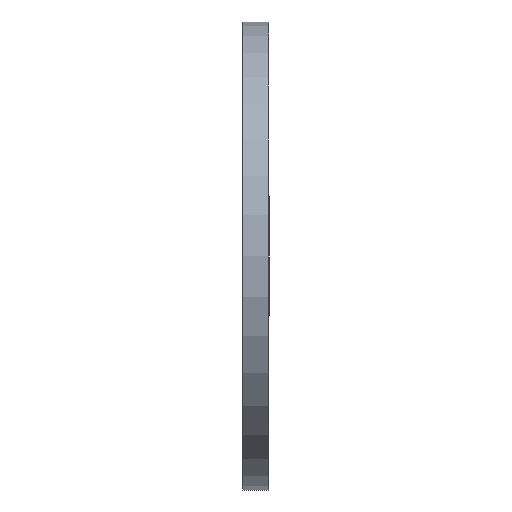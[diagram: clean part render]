
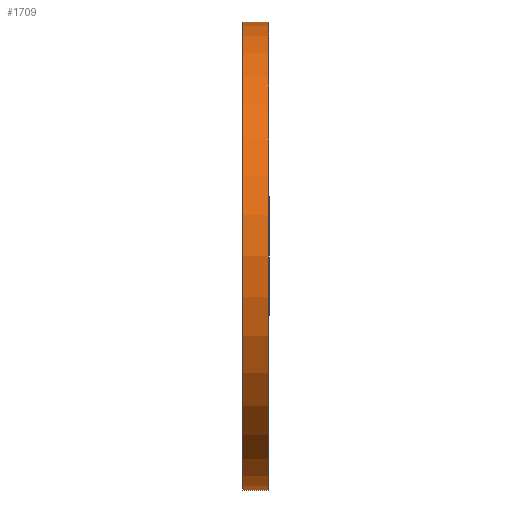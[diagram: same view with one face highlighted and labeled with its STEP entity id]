
A CAD part, left-side view. The second image highlights one B-rep face of the part: STEP entity #1709.
In plain terms, the highlighted cylindrical face has radius 45 mm (diameter 90 mm), a partial arc.
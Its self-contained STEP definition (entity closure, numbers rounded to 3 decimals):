
#179 = VERTEX_POINT ( 'NONE', #1853 ) ;
#233 = VERTEX_POINT ( 'NONE', #1841 ) ;
#288 = VECTOR ( 'NONE', #1513, 1000. ) ;
#325 = AXIS2_PLACEMENT_3D ( 'NONE', #1616, #1617, #1618 ) ;
#331 = CIRCLE ( 'NONE', #389, 45. ) ;
#335 = VECTOR ( 'NONE', #1515, 1000. ) ;
#389 = AXIS2_PLACEMENT_3D ( 'NONE', #1477, #1478, #1479 ) ;
#431 = VERTEX_POINT ( 'NONE', #1810 ) ;
#432 = VERTEX_POINT ( 'NONE', #1809 ) ;
#545 = EDGE_LOOP ( 'NONE', ( #596, #599, #598, #600 ) ) ;
#596 = ORIENTED_EDGE ( 'NONE', *, *, #1659, .T. ) ;
#598 = ORIENTED_EDGE ( 'NONE', *, *, #787, .F. ) ;
#599 = ORIENTED_EDGE ( 'NONE', *, *, #1673, .F. ) ;
#600 = ORIENTED_EDGE ( 'NONE', *, *, #1674, .T. ) ;
#787 = EDGE_CURVE ( 'NONE', #233, #179, #1203, .T. ) ;
#964 = CARTESIAN_POINT ( 'NONE',  ( -96., -5., 0. ) ) ;
#965 = DIRECTION ( 'NONE',  ( 0., -1., 0. ) ) ;
#966 = DIRECTION ( 'NONE',  ( 0., 0., -1. ) ) ;
#1203 = CIRCLE ( 'NONE', #1207, 45. ) ;
#1207 = AXIS2_PLACEMENT_3D ( 'NONE', #964, #965, #966 ) ;
#1323 = LINE ( 'NONE', #1514, #335 ) ;
#1326 = LINE ( 'NONE', #1512, #288 ) ;
#1477 = CARTESIAN_POINT ( 'NONE',  ( -96., 0., 0. ) ) ;
#1478 = DIRECTION ( 'NONE',  ( 0., -1., 0. ) ) ;
#1479 = DIRECTION ( 'NONE',  ( 0., 0., -1. ) ) ;
#1512 = CARTESIAN_POINT ( 'NONE',  ( -96., -5., -45. ) ) ;
#1513 = DIRECTION ( 'NONE',  ( 0., 1., 0. ) ) ;
#1514 = CARTESIAN_POINT ( 'NONE',  ( -96., -5., 45. ) ) ;
#1515 = DIRECTION ( 'NONE',  ( 0., 1., 0. ) ) ;
#1616 = CARTESIAN_POINT ( 'NONE',  ( -96., -5., 0. ) ) ;
#1617 = DIRECTION ( 'NONE',  ( 0., 1., 0. ) ) ;
#1618 = DIRECTION ( 'NONE',  ( 0., 0., 1. ) ) ;
#1659 = EDGE_CURVE ( 'NONE', #431, #432, #331, .T. ) ;
#1673 = EDGE_CURVE ( 'NONE', #179, #432, #1326, .T. ) ;
#1674 = EDGE_CURVE ( 'NONE', #233, #431, #1323, .T. ) ;
#1709 = ADVANCED_FACE ( 'NONE', ( #1714 ), #1715, .T. ) ;
#1714 = FACE_OUTER_BOUND ( 'NONE', #545, .T. ) ;
#1715 = CYLINDRICAL_SURFACE ( 'NONE', #325, 45. ) ;
#1809 = CARTESIAN_POINT ( 'NONE',  ( -96., 0., -45. ) ) ;
#1810 = CARTESIAN_POINT ( 'NONE',  ( -96., 0., 45. ) ) ;
#1841 = CARTESIAN_POINT ( 'NONE',  ( -96., -5., 45. ) ) ;
#1853 = CARTESIAN_POINT ( 'NONE',  ( -96., -5., -45. ) ) ;
